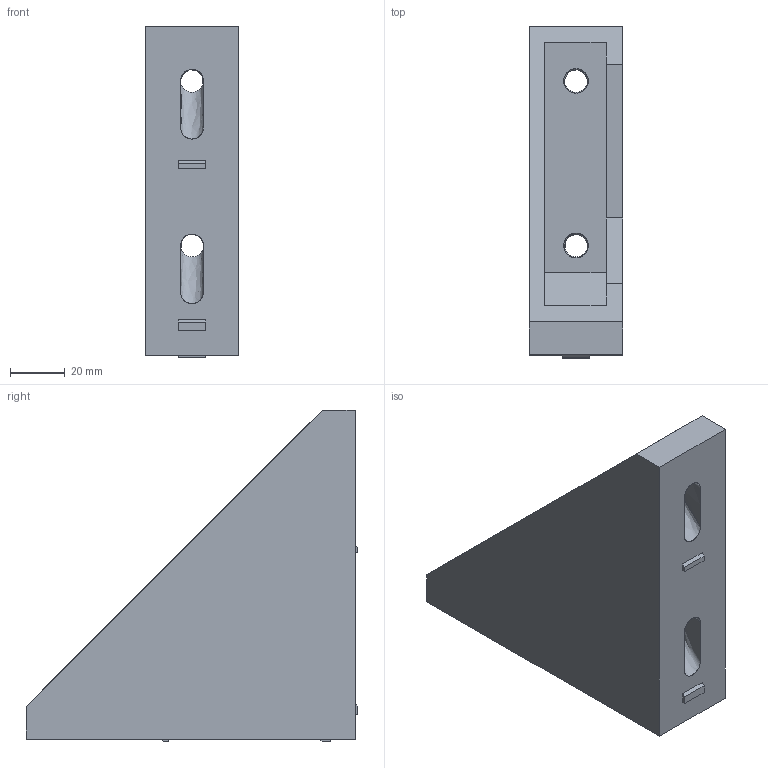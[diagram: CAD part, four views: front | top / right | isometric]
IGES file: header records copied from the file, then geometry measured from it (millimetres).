
Start section: SolidWorks IGES file using analytic representation for surfaces
Global section: file name: C:\Documents and Settings\TonookaT\デスクトップ\2008WEBCADﾃﾞｰﾀ\SFJ-026.IGS; native system: SolidWorks 2006 by SolidWorks Corporation; preprocessor: SolidWorks 2006 by SolidWorks Corporation; author: TonookaT; date: 080826.131535; units: millimetre
Bounding box: 34 x 121 x 121 mm (x, y, z)
Surface area: 38186.5 mm2 (no closed solid volume)
Topology: 0 solids, 0 shells, 51 faces, 594 edges, 594 vertices
Faces by surface type: bspline 43, revolution 8
